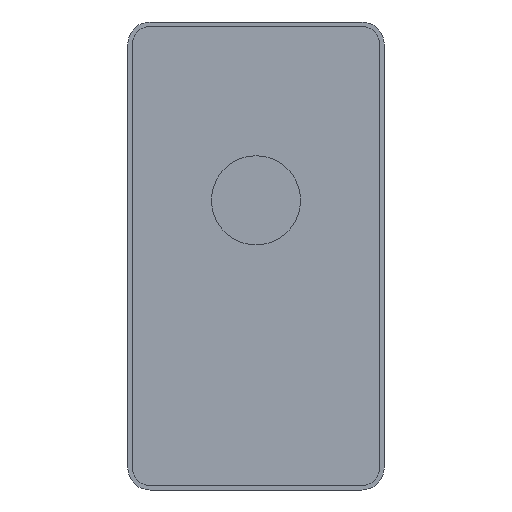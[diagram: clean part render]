
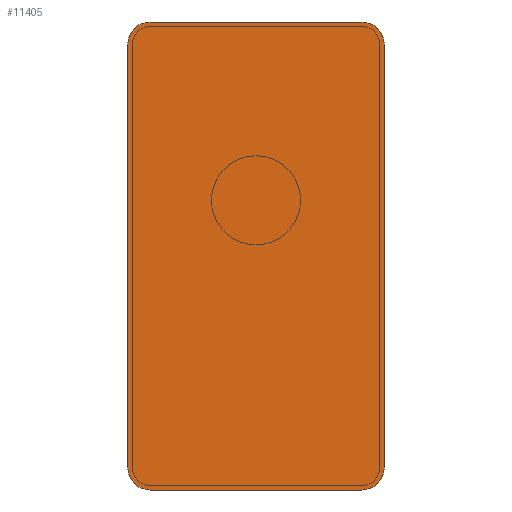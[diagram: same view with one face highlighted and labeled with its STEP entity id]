
A CAD part, front view. The second image highlights one B-rep face of the part: STEP entity #11405.
In plain terms, the highlighted planar face has unit normal (0, -1, 0).
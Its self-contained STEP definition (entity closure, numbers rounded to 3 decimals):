
#4044=CARTESIAN_POINT('',(47.5,0.,-95.));
#4045=DIRECTION('',(0.,-1.,0.));
#4046=DIRECTION('',(0.,0.,-1.));
#4047=AXIS2_PLACEMENT_3D('',#4044,#4045,#4046);
#4049=DIRECTION('',(-1.,0.,0.));
#4050=VECTOR('',#4049,95.);
#4051=CARTESIAN_POINT('',(47.5,0.,-105.));
#4052=LINE('',#4051,#4050);
#4053=CARTESIAN_POINT('',(-47.5,0.,-95.));
#4054=DIRECTION('',(0.,-1.,0.));
#4055=DIRECTION('',(-1.,0.,0.));
#4056=AXIS2_PLACEMENT_3D('',#4053,#4054,#4055);
#4058=DIRECTION('',(0.,0.,1.));
#4059=VECTOR('',#4058,190.);
#4060=CARTESIAN_POINT('',(-57.5,0.,-95.));
#4061=LINE('',#4060,#4059);
#4062=CARTESIAN_POINT('',(-47.5,0.,95.));
#4063=DIRECTION('',(0.,-1.,0.));
#4064=DIRECTION('',(0.,0.,1.));
#4065=AXIS2_PLACEMENT_3D('',#4062,#4063,#4064);
#4067=DIRECTION('',(1.,0.,0.));
#4068=VECTOR('',#4067,95.);
#4069=CARTESIAN_POINT('',(-47.5,0.,105.));
#4070=LINE('',#4069,#4068);
#4071=CARTESIAN_POINT('',(47.5,0.,95.));
#4072=DIRECTION('',(0.,-1.,0.));
#4073=DIRECTION('',(1.,0.,0.));
#4074=AXIS2_PLACEMENT_3D('',#4071,#4072,#4073);
#4076=DIRECTION('',(0.,0.,-1.));
#4077=VECTOR('',#4076,190.);
#4078=CARTESIAN_POINT('',(57.5,0.,95.));
#4079=LINE('',#4078,#4077);
#6606=CARTESIAN_POINT('',(47.5,0.,-105.));
#6607=CARTESIAN_POINT('',(57.5,0.,-95.));
#6608=VERTEX_POINT('',#6606);
#6609=VERTEX_POINT('',#6607);
#6610=CARTESIAN_POINT('',(-57.5,0.,-95.));
#6611=CARTESIAN_POINT('',(-47.5,0.,-105.));
#6612=VERTEX_POINT('',#6610);
#6613=VERTEX_POINT('',#6611);
#6614=CARTESIAN_POINT('',(57.5,0.,95.));
#6615=CARTESIAN_POINT('',(47.5,0.,105.));
#6616=VERTEX_POINT('',#6614);
#6617=VERTEX_POINT('',#6615);
#6618=CARTESIAN_POINT('',(-47.5,0.,105.));
#6619=CARTESIAN_POINT('',(-57.5,0.,95.));
#6620=VERTEX_POINT('',#6618);
#6621=VERTEX_POINT('',#6619);
#11390=CARTESIAN_POINT('',(0.,0.,0.));
#11391=DIRECTION('',(0.,1.,0.));
#11392=DIRECTION('',(1.,0.,0.));
#11393=AXIS2_PLACEMENT_3D('',#11390,#11391,#11392);
#11394=PLANE('',#11393);
#11395=ORIENTED_EDGE('',*,*,#11286,.F.);
#11396=ORIENTED_EDGE('',*,*,#11301,.T.);
#11397=ORIENTED_EDGE('',*,*,#11315,.F.);
#11398=ORIENTED_EDGE('',*,*,#11329,.T.);
#11399=ORIENTED_EDGE('',*,*,#11343,.F.);
#11400=ORIENTED_EDGE('',*,*,#11357,.T.);
#11401=ORIENTED_EDGE('',*,*,#11371,.F.);
#11402=ORIENTED_EDGE('',*,*,#11384,.T.);
#11403=EDGE_LOOP('',(#11395,#11396,#11397,#11398,#11399,#11400,#11401,#11402));
#11404=FACE_OUTER_BOUND('',#11403,.F.);
#11405=ADVANCED_FACE('',(#11404),#11394,.F.);
#4048=CIRCLE('',#4047,10.);
#4057=CIRCLE('',#4056,10.);
#4066=CIRCLE('',#4065,10.);
#4075=CIRCLE('',#4074,10.);
#11286=EDGE_CURVE('',#6608,#6609,#4048,.T.);
#11301=EDGE_CURVE('',#6608,#6613,#4052,.T.);
#11315=EDGE_CURVE('',#6612,#6613,#4057,.T.);
#11329=EDGE_CURVE('',#6612,#6621,#4061,.T.);
#11343=EDGE_CURVE('',#6620,#6621,#4066,.T.);
#11357=EDGE_CURVE('',#6620,#6617,#4070,.T.);
#11371=EDGE_CURVE('',#6616,#6617,#4075,.T.);
#11384=EDGE_CURVE('',#6616,#6609,#4079,.T.);
